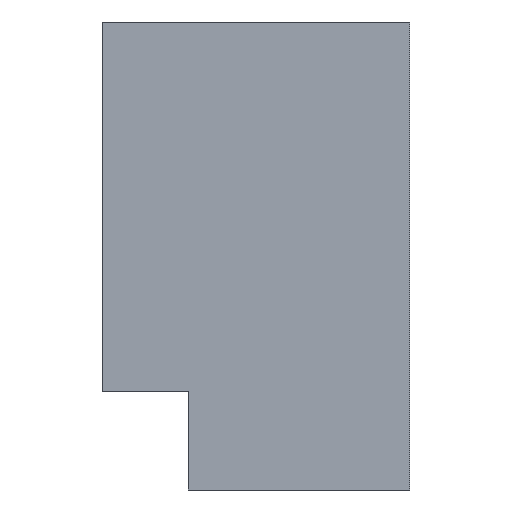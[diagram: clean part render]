
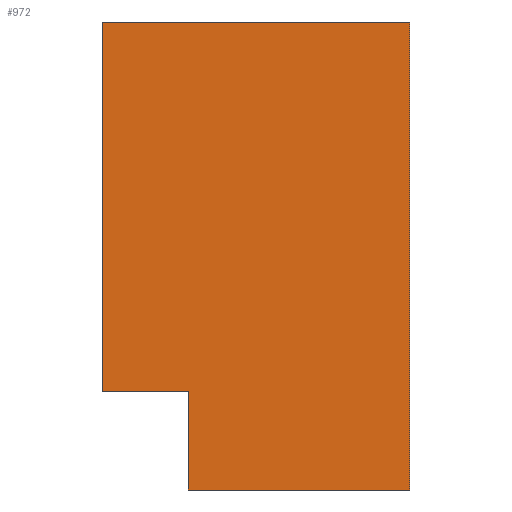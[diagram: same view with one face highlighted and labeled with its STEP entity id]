
A CAD part, left-side view. The second image highlights one B-rep face of the part: STEP entity #972.
In plain terms, the highlighted planar face has unit normal (1, 0, 0).
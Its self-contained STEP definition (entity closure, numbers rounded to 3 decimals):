
#917=CARTESIAN_POINT('Axis2P3D Location',(-80.,0.,0.)) ;
#922=CARTESIAN_POINT('Line Origine',(-80.,5.5,-34.)) ;
#926=CARTESIAN_POINT('Vertex',(-80.,5.5,-38.)) ;
#928=CARTESIAN_POINT('Vertex',(-80.,5.5,-30.)) ;
#931=CARTESIAN_POINT('Line Origine',(-80.,9.,-30.)) ;
#935=CARTESIAN_POINT('Vertex',(-80.,12.5,-30.)) ;
#938=CARTESIAN_POINT('Line Origine',(-80.,12.5,-15.)) ;
#942=CARTESIAN_POINT('Vertex',(-80.,12.5,0.)) ;
#945=CARTESIAN_POINT('Line Origine',(-80.,0.,0.)) ;
#949=CARTESIAN_POINT('Vertex',(-80.,-12.5,0.)) ;
#952=CARTESIAN_POINT('Line Origine',(-80.,-12.5,-19.)) ;
#956=CARTESIAN_POINT('Vertex',(-80.,-12.5,-38.)) ;
#959=CARTESIAN_POINT('Line Origine',(-80.,-3.5,-38.)) ;
#918=DIRECTION('Axis2P3D Direction',(1.,0.,0.)) ;
#919=DIRECTION('Axis2P3D XDirection',(0.,1.,0.)) ;
#923=DIRECTION('Vector Direction',(0.,0.,1.)) ;
#932=DIRECTION('Vector Direction',(0.,1.,0.)) ;
#939=DIRECTION('Vector Direction',(0.,0.,1.)) ;
#946=DIRECTION('Vector Direction',(0.,-1.,0.)) ;
#953=DIRECTION('Vector Direction',(0.,0.,-1.)) ;
#960=DIRECTION('Vector Direction',(0.,1.,0.)) ;
#920=AXIS2_PLACEMENT_3D('Plane Axis2P3D',#917,#918,#919) ;
#965=ORIENTED_EDGE('',*,*,#930,.T.) ;
#966=ORIENTED_EDGE('',*,*,#937,.T.) ;
#967=ORIENTED_EDGE('',*,*,#944,.T.) ;
#968=ORIENTED_EDGE('',*,*,#951,.T.) ;
#969=ORIENTED_EDGE('',*,*,#958,.T.) ;
#970=ORIENTED_EDGE('',*,*,#963,.T.) ;
#924=VECTOR('Line Direction',#923,1.) ;
#933=VECTOR('Line Direction',#932,1.) ;
#940=VECTOR('Line Direction',#939,1.) ;
#947=VECTOR('Line Direction',#946,1.) ;
#954=VECTOR('Line Direction',#953,1.) ;
#961=VECTOR('Line Direction',#960,1.) ;
#972=ADVANCED_FACE('MANIFOLD_SOLID_BREP #5560',(#971),#921,.T.) ;
#930=EDGE_CURVE('',#927,#929,#925,.T.) ;
#937=EDGE_CURVE('',#929,#936,#934,.T.) ;
#944=EDGE_CURVE('',#936,#943,#941,.T.) ;
#951=EDGE_CURVE('',#943,#950,#948,.T.) ;
#958=EDGE_CURVE('',#950,#957,#955,.T.) ;
#963=EDGE_CURVE('',#957,#927,#962,.T.) ;
#964=EDGE_LOOP('',(#965,#966,#967,#968,#969,#970)) ;
#971=FACE_OUTER_BOUND('',#964,.T.) ;
#925=LINE('Line',#922,#924) ;
#934=LINE('Line',#931,#933) ;
#941=LINE('Line',#938,#940) ;
#948=LINE('Line',#945,#947) ;
#955=LINE('Line',#952,#954) ;
#962=LINE('Line',#959,#961) ;
#921=PLANE('Plane',#920) ;
#927=VERTEX_POINT('',#926) ;
#929=VERTEX_POINT('',#928) ;
#936=VERTEX_POINT('',#935) ;
#943=VERTEX_POINT('',#942) ;
#950=VERTEX_POINT('',#949) ;
#957=VERTEX_POINT('',#956) ;
